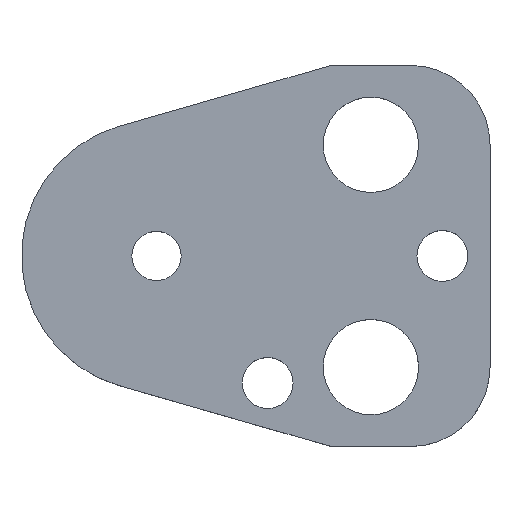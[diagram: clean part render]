
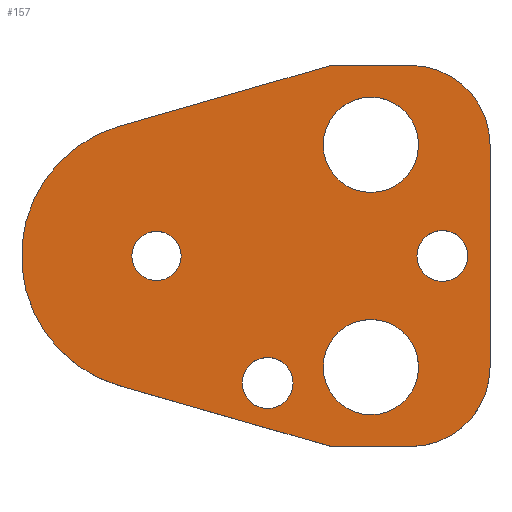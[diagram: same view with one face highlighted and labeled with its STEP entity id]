
A CAD part, top view. The second image highlights one B-rep face of the part: STEP entity #157.
In plain terms, the highlighted planar face has unit normal (0, 0, 1).
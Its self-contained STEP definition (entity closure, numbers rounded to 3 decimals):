
#103=FACE_BOUND('',#207,.T.);
#104=FACE_BOUND('',#208,.T.);
#105=FACE_BOUND('',#209,.T.);
#106=FACE_BOUND('',#210,.T.);
#107=FACE_BOUND('',#211,.T.);
#108=FACE_BOUND('',#212,.T.);
#122=CIRCLE('',#480,10.);
#124=CIRCLE('',#484,10.);
#127=CIRCLE('',#490,17.);
#138=CIRCLE('',#503,3.2);
#139=CIRCLE('',#504,3.2);
#140=CIRCLE('',#505,6.);
#141=CIRCLE('',#506,6.);
#142=CIRCLE('',#507,6.);
#143=CIRCLE('',#508,6.);
#144=CIRCLE('',#509,3.2);
#145=CIRCLE('',#510,3.2);
#146=CIRCLE('',#511,3.1);
#147=CIRCLE('',#512,3.1);
#157=ADVANCED_FACE('',(#103,#104,#105,#106,#107,#108),#174,.T.);
#174=PLANE('',#513);
#207=EDGE_LOOP('',(#273,#274,#275,#276,#277,#278,#279,#280));
#208=EDGE_LOOP('',(#281,#282));
#209=EDGE_LOOP('',(#283,#284));
#210=EDGE_LOOP('',(#285,#286));
#211=EDGE_LOOP('',(#287,#288));
#212=EDGE_LOOP('',(#289,#290));
#273=ORIENTED_EDGE('',*,*,#368,.T.);
#274=ORIENTED_EDGE('',*,*,#372,.T.);
#275=ORIENTED_EDGE('',*,*,#375,.T.);
#276=ORIENTED_EDGE('',*,*,#378,.T.);
#277=ORIENTED_EDGE('',*,*,#381,.T.);
#278=ORIENTED_EDGE('',*,*,#384,.T.);
#279=ORIENTED_EDGE('',*,*,#387,.T.);
#280=ORIENTED_EDGE('',*,*,#390,.T.);
#281=ORIENTED_EDGE('',*,*,#401,.T.);
#282=ORIENTED_EDGE('',*,*,#402,.T.);
#283=ORIENTED_EDGE('',*,*,#403,.T.);
#284=ORIENTED_EDGE('',*,*,#404,.T.);
#285=ORIENTED_EDGE('',*,*,#405,.T.);
#286=ORIENTED_EDGE('',*,*,#406,.T.);
#287=ORIENTED_EDGE('',*,*,#407,.T.);
#288=ORIENTED_EDGE('',*,*,#408,.T.);
#289=ORIENTED_EDGE('',*,*,#409,.T.);
#290=ORIENTED_EDGE('',*,*,#410,.T.);
#332=VERTEX_POINT('',#649);
#333=VERTEX_POINT('',#651);
#336=VERTEX_POINT('',#658);
#338=VERTEX_POINT('',#664);
#340=VERTEX_POINT('',#670);
#342=VERTEX_POINT('',#676);
#344=VERTEX_POINT('',#682);
#346=VERTEX_POINT('',#688);
#357=VERTEX_POINT('',#717);
#358=VERTEX_POINT('',#718);
#359=VERTEX_POINT('',#721);
#360=VERTEX_POINT('',#722);
#361=VERTEX_POINT('',#725);
#362=VERTEX_POINT('',#726);
#363=VERTEX_POINT('',#729);
#364=VERTEX_POINT('',#730);
#365=VERTEX_POINT('',#733);
#366=VERTEX_POINT('',#734);
#368=EDGE_CURVE('',#333,#332,#422,.T.);
#372=EDGE_CURVE('',#332,#336,#426,.T.);
#375=EDGE_CURVE('',#336,#338,#122,.T.);
#378=EDGE_CURVE('',#338,#340,#430,.T.);
#381=EDGE_CURVE('',#340,#342,#124,.T.);
#384=EDGE_CURVE('',#342,#344,#434,.T.);
#387=EDGE_CURVE('',#344,#346,#437,.T.);
#390=EDGE_CURVE('',#346,#333,#127,.T.);
#401=EDGE_CURVE('',#357,#358,#138,.T.);
#402=EDGE_CURVE('',#358,#357,#139,.T.);
#403=EDGE_CURVE('',#359,#360,#140,.T.);
#404=EDGE_CURVE('',#360,#359,#141,.T.);
#405=EDGE_CURVE('',#361,#362,#142,.T.);
#406=EDGE_CURVE('',#362,#361,#143,.T.);
#407=EDGE_CURVE('',#363,#364,#144,.T.);
#408=EDGE_CURVE('',#364,#363,#145,.T.);
#409=EDGE_CURVE('',#365,#366,#146,.T.);
#410=EDGE_CURVE('',#366,#365,#147,.T.);
#422=LINE('',#650,#450);
#426=LINE('',#659,#454);
#430=LINE('',#671,#458);
#434=LINE('',#683,#462);
#437=LINE('',#689,#465);
#450=VECTOR('',#527,1.);
#454=VECTOR('',#533,1.);
#458=VECTOR('',#545,1.);
#462=VECTOR('',#557,1.);
#465=VECTOR('',#562,1.);
#480=AXIS2_PLACEMENT_3D('',#665,#538,#539);
#484=AXIS2_PLACEMENT_3D('',#677,#550,#551);
#490=AXIS2_PLACEMENT_3D('',#693,#568,#569);
#503=AXIS2_PLACEMENT_3D('',#716,#594,#595);
#504=AXIS2_PLACEMENT_3D('',#719,#596,#597);
#505=AXIS2_PLACEMENT_3D('',#720,#598,#599);
#506=AXIS2_PLACEMENT_3D('',#723,#600,#601);
#507=AXIS2_PLACEMENT_3D('',#724,#602,#603);
#508=AXIS2_PLACEMENT_3D('',#727,#604,#605);
#509=AXIS2_PLACEMENT_3D('',#728,#606,#607);
#510=AXIS2_PLACEMENT_3D('',#731,#608,#609);
#511=AXIS2_PLACEMENT_3D('',#732,#610,#611);
#512=AXIS2_PLACEMENT_3D('',#735,#612,#613);
#513=AXIS2_PLACEMENT_3D('',#736,#614,#615);
#527=DIRECTION('',(0.961,-0.276,0.));
#533=DIRECTION('',(1.,0.,0.));
#538=DIRECTION('',(0.,0.,1.));
#539=DIRECTION('',(-0.707,0.707,0.));
#545=DIRECTION('',(0.,1.,0.));
#550=DIRECTION('',(0.,0.,1.));
#551=DIRECTION('',(-0.707,-0.707,0.));
#557=DIRECTION('',(-1.,0.,0.));
#562=DIRECTION('',(-0.961,-0.276,0.));
#568=DIRECTION('',(0.,0.,1.));
#569=DIRECTION('',(1.,0.,0.));
#594=DIRECTION('',(0.,0.,-1.));
#595=DIRECTION('',(-1.,0.,0.));
#596=DIRECTION('',(0.,0.,-1.));
#597=DIRECTION('',(1.,0.,0.));
#598=DIRECTION('',(0.,0.,-1.));
#599=DIRECTION('',(-1.,0.,0.));
#600=DIRECTION('',(0.,0.,-1.));
#601=DIRECTION('',(1.,0.,0.));
#602=DIRECTION('',(0.,0.,-1.));
#603=DIRECTION('',(-1.,0.,0.));
#604=DIRECTION('',(0.,0.,-1.));
#605=DIRECTION('',(1.,0.,0.));
#606=DIRECTION('',(0.,0.,-1.));
#607=DIRECTION('',(-1.,0.,0.));
#608=DIRECTION('',(0.,0.,-1.));
#609=DIRECTION('',(1.,0.,0.));
#610=DIRECTION('',(0.,0.,-1.));
#611=DIRECTION('',(-1.,0.,0.));
#612=DIRECTION('',(0.,0.,-1.));
#613=DIRECTION('',(1.,0.,0.));
#614=DIRECTION('',(0.,0.,1.));
#615=DIRECTION('',(0.961,-0.276,0.));
#649=CARTESIAN_POINT('',(22.,-24.,7.));
#650=CARTESIAN_POINT('',(22.,-24.,7.));
#651=CARTESIAN_POINT('',(-4.69,-16.34,7.));
#658=CARTESIAN_POINT('',(32.,-24.,7.));
#659=CARTESIAN_POINT('',(22.,-24.,7.));
#664=CARTESIAN_POINT('',(42.,-14.,7.));
#665=CARTESIAN_POINT('',(32.,-14.,7.));
#670=CARTESIAN_POINT('',(42.,14.,7.));
#671=CARTESIAN_POINT('',(42.,14.,7.));
#676=CARTESIAN_POINT('',(32.,24.,7.));
#677=CARTESIAN_POINT('',(32.,14.,7.));
#682=CARTESIAN_POINT('',(22.,24.,7.));
#683=CARTESIAN_POINT('',(22.,24.,7.));
#688=CARTESIAN_POINT('',(-4.69,16.34,7.));
#689=CARTESIAN_POINT('',(22.,24.,7.));
#693=CARTESIAN_POINT('',(0.,0.,7.));
#716=CARTESIAN_POINT('',(36.,0.,7.));
#717=CARTESIAN_POINT('',(36.,3.2,7.));
#718=CARTESIAN_POINT('',(36.,-3.2,7.));
#719=CARTESIAN_POINT('',(36.,0.,7.));
#720=CARTESIAN_POINT('',(27.,14.,7.));
#721=CARTESIAN_POINT('',(27.,20.,7.));
#722=CARTESIAN_POINT('',(27.,8.,7.));
#723=CARTESIAN_POINT('',(27.,14.,7.));
#724=CARTESIAN_POINT('',(27.,-14.,7.));
#725=CARTESIAN_POINT('',(27.,-8.,7.));
#726=CARTESIAN_POINT('',(27.,-20.,7.));
#727=CARTESIAN_POINT('',(27.,-14.,7.));
#728=CARTESIAN_POINT('',(14.,-16.,7.));
#729=CARTESIAN_POINT('',(14.,-12.8,7.));
#730=CARTESIAN_POINT('',(14.,-19.2,7.));
#731=CARTESIAN_POINT('',(14.,-16.,7.));
#732=CARTESIAN_POINT('',(0.,0.,7.));
#733=CARTESIAN_POINT('',(0.,3.1,7.));
#734=CARTESIAN_POINT('',(0.,-3.1,7.));
#735=CARTESIAN_POINT('',(0.,0.,7.));
#736=CARTESIAN_POINT('',(-4.69,-16.34,7.));
